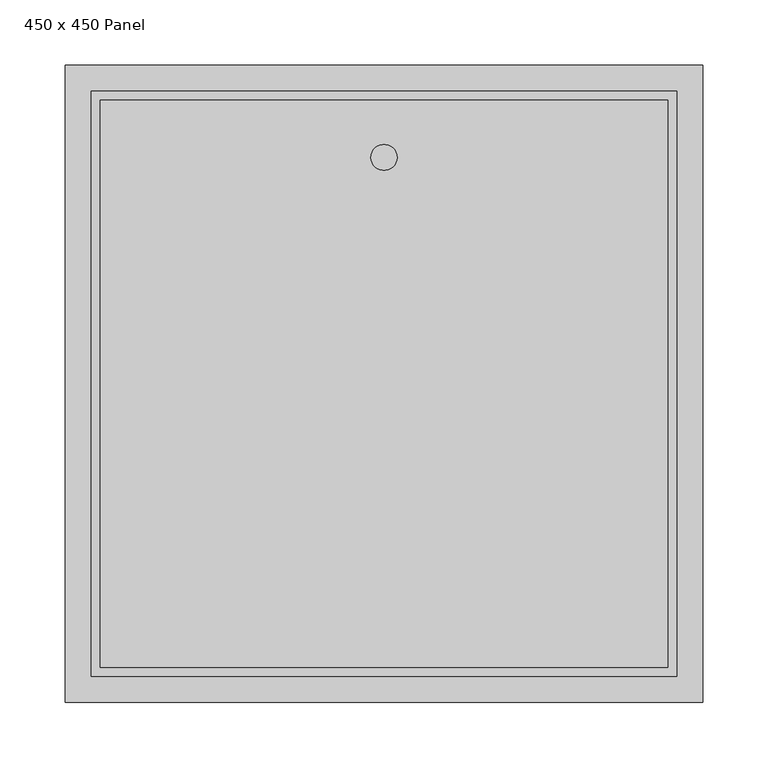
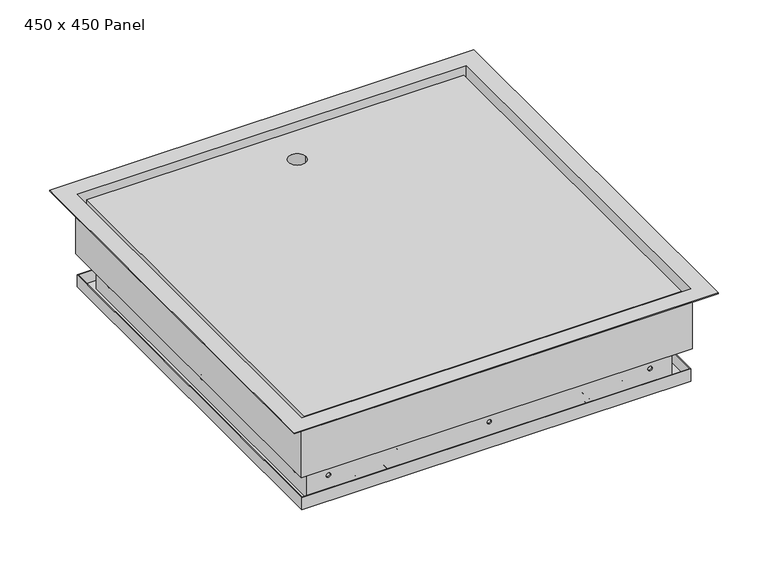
"""IFC4 building model written with IfcOpenShell, lengths in millimetres: proxy geometry, 450 x 450 Fyreshield : 450 x 450 Panel."""

from ifc_helpers import new_model, si_unit, point, frame, frame_2d, origin, place, context, project, spatial, polyline, circle_curve, trimmed, segment, composite_curve, outline, extrude, source, transform, mapped, element, save
from ifc_brep_helpers import plane_surface, cylinder_surface, revolved_surface, advanced_brep


def proxy_450_x_450_panel_227bbeb4(model_context):
    return source(origin(), model_context, "Body", "SolidModel", [
        advanced_brep(
        [(30.0, -280.0, -109.5), (32.5, -280.0, -112.0), (32.5, -285.0, -112.0), (30.0, -285.0, -109.5), (30.0, -280.0, -89.3136739), (30.0, -285.0, -89.3136739), (32.5, -280.0, -86.8136739), (32.5, -285.0, -86.8136739), (42.5, -280.0, -112.0), (45.0, -280.0, -114.5), (45.0, -285.0, -114.5), (42.5, -285.0, -112.0), (77.5, -280.0, -112.0), (87.5, -280.0, -112.0), (87.5, -285.0, -112.0), (77.5, -285.0, -112.0), (75.0, -280.0, -114.5), (75.0, -285.0, -114.5), (90.0, -280.0, -90.3136739), (87.5, -280.0, -87.8136739), (87.5, -285.0, -87.8136739), (90.0, -285.0, -90.3136739), (90.0, -280.0, -109.5), (90.0, -285.0, -109.5), (45.0, -280.0, -86.8136739), (45.0, -280.0, -87.8136739), (50.0, -280.0, -87.8136739), (50.0, -280.0, -122.3447528), (45.0, -280.0, -122.3447528), (41.239566, -280.0, -105.6125194), (36.239566, -280.0, -105.6125194), (36.239566, -280.0, -96.7011546), (41.239566, -280.0, -96.7011546), (41.239566, -280.0, -91.7011546), (36.239566, -280.0, -91.7011546), (75.0, -280.0, -122.3447528), (70.0, -280.0, -122.3447528), (70.0, -280.0, -87.8136739), (83.760434, -280.0, -94.2011546), (78.760434, -280.0, -94.2011546), (83.760434, -280.0, -108.1125194), (83.760434, -280.0, -103.1125194), (78.760434, -280.0, -103.1125194), (78.760434, -280.0, -108.1125194), (45.0, -285.0, -122.3447528), (75.0, -285.0, -122.3447528), (45.0, -285.0, -87.8136739), (45.0, -285.0, -86.8136739), (78.760434, -285.0, -94.2011546), (83.760434, -285.0, -94.2011546), (83.760434, -285.0, -103.1125194), (83.760434, -285.0, -108.1125194), (78.760434, -285.0, -108.1125194), (78.760434, -285.0, -103.1125194), (36.239566, -285.0, -105.6125194), (41.239566, -285.0, -105.6125194), (41.239566, -285.0, -96.7011546), (36.239566, -285.0, -96.7011546), (36.239566, -285.0, -91.7011546), (41.239566, -285.0, -91.7011546), (70.0, -272.5, -87.8136739), (50.0, -272.5, -87.8136739), (50.0, -260.0, -122.3447528), (70.0, -260.0, -122.3447528), (70.0, -260.0, -85.3136739), (70.0, -257.5, -82.8136739), (70.0, -231.75, -82.8136739), (70.0, -226.75, -77.8136739), (70.0, -226.75, -74.0), (70.0, -236.75, -74.0), (70.0, -268.0303717, -77.336871), (70.0, -272.5, -82.308662), (50.0, -260.0, -85.3136739), (50.0, -272.5, -82.308662), (50.0, -268.0303717, -77.336871), (50.0, -236.75, -74.0), (50.0, -226.75, -74.0), (50.0, -226.75, -77.8136739), (50.0, -231.75, -82.8136739), (50.0, -257.5, -82.8136739)],
        [
            (0, 1, circle_curve(frame((32.5, -280.0, -109.5), z_axis=(0.0, -1.0, 0.0), x_axis=(-1.0, 0.0, 0.0)), 2.5)),
            (1, 2),
            (2, 3, circle_curve(frame((32.5, -285.0, -109.5), z_axis=(0.0, 1.0, 0.0), x_axis=(-1.0, 0.0, 0.0)), 2.5)),
            (3, 0),
            (4, 0),
            (3, 5),
            (5, 4),
            (6, 4, circle_curve(frame((32.5, -280.0, -89.3136739), z_axis=(0.0, -1.0, 0.0), x_axis=(-1.0, 0.0, 0.0)), 2.5)),
            (5, 7, circle_curve(frame((32.5, -285.0, -89.3136739), z_axis=(0.0, 1.0, 0.0), x_axis=(-1.0, 0.0, 0.0)), 2.5)),
            (7, 6),
            (8, 9, circle_curve(frame((42.5, -280.0, -114.5), z_axis=(0.0, 1.0, 0.0), x_axis=(-1.0, 0.0, 0.0)), 2.5)),
            (9, 10),
            (10, 11, circle_curve(frame((42.5, -285.0, -114.5), z_axis=(0.0, -1.0, 0.0), x_axis=(-1.0, 0.0, 0.0)), 2.5)),
            (11, 8),
            (1, 8),
            (11, 2),
            (12, 13),
            (13, 14),
            (14, 15),
            (15, 12),
            (16, 12, circle_curve(frame((77.5, -280.0, -114.5), z_axis=(0.0, 1.0, 0.0), x_axis=(-1.0, 0.0, 0.0)), 2.5)),
            (15, 17, circle_curve(frame((77.5, -285.0, -114.5), z_axis=(0.0, -1.0, 0.0), x_axis=(-1.0, 0.0, 0.0)), 2.5)),
            (17, 16),
            (18, 19, circle_curve(frame((87.5, -280.0, -90.3136739), z_axis=(0.0, -1.0, 0.0), x_axis=(-1.0, 0.0, 0.0)), 2.5)),
            (19, 20),
            (20, 21, circle_curve(frame((87.5, -285.0, -90.3136739), z_axis=(0.0, 1.0, 0.0), x_axis=(-1.0, 0.0, 0.0)), 2.5)),
            (21, 18),
            (22, 18),
            (21, 23),
            (23, 22),
            (13, 22, circle_curve(frame((87.5, -280.0, -109.5), z_axis=(0.0, -1.0, 0.0), x_axis=(-1.0, 0.0, 0.0)), 2.5)),
            (23, 14, circle_curve(frame((87.5, -285.0, -109.5), z_axis=(0.0, 1.0, 0.0), x_axis=(-1.0, 0.0, 0.0)), 2.5)),
            (6, 24),
            (24, 25),
            (25, 26),
            (26, 27),
            (27, 28),
            (28, 9),
            (29, 30, circle_curve(frame((38.739566, -280.0, -105.6125194), z_axis=(0.0, -1.0, 0.0), x_axis=(1.0, 0.0, 0.0)), 2.5)),
            (30, 29, circle_curve(frame((38.739566, -280.0, -105.6125194), z_axis=(0.0, -1.0, 0.0), x_axis=(1.0, 0.0, 0.0)), 2.5)),
            (31, 32),
            (32, 33, circle_curve(frame((41.239566, -280.0, -94.2011546), z_axis=(0.0, -1.0, 0.0), x_axis=(1.0, 0.0, 0.0)), 2.5)),
            (33, 34),
            (34, 31, circle_curve(frame((36.239566, -280.0, -94.2011546), z_axis=(0.0, -1.0, 0.0), x_axis=(1.0, 0.0, 0.0)), 2.5)),
            (16, 35),
            (35, 36),
            (36, 37),
            (37, 19),
            (38, 39, circle_curve(frame((81.260434, -280.0, -94.2011546), z_axis=(0.0, -1.0, 0.0), x_axis=(1.0, 0.0, 0.0)), 2.5)),
            (39, 38, circle_curve(frame((81.260434, -280.0, -94.2011546), z_axis=(0.0, -1.0, 0.0), x_axis=(1.0, 0.0, 0.0)), 2.5)),
            (40, 41, circle_curve(frame((83.760434, -280.0, -105.6125194), z_axis=(0.0, -1.0, 0.0), x_axis=(1.0, 0.0, 0.0)), 2.5)),
            (41, 42),
            (42, 43, circle_curve(frame((78.760434, -280.0, -105.6125194), z_axis=(0.0, -1.0, 0.0), x_axis=(1.0, 0.0, 0.0)), 2.5)),
            (43, 40),
            (10, 44),
            (44, 45),
            (45, 17),
            (20, 46),
            (46, 47),
            (47, 7),
            (48, 49, circle_curve(frame((81.260434, -285.0, -94.2011546), z_axis=(0.0, 1.0, 0.0), x_axis=(1.0, 0.0, 0.0)), 2.5)),
            (49, 48, circle_curve(frame((81.260434, -285.0, -94.2011546), z_axis=(0.0, 1.0, 0.0), x_axis=(1.0, 0.0, 0.0)), 2.5)),
            (50, 51, circle_curve(frame((83.760434, -285.0, -105.6125194), z_axis=(0.0, 1.0, 0.0), x_axis=(1.0, 0.0, 0.0)), 2.5)),
            (51, 52),
            (52, 53, circle_curve(frame((78.760434, -285.0, -105.6125194), z_axis=(0.0, 1.0, 0.0), x_axis=(1.0, 0.0, 0.0)), 2.5)),
            (53, 50),
            (54, 55, circle_curve(frame((38.739566, -285.0, -105.6125194), z_axis=(0.0, 1.0, 0.0), x_axis=(1.0, 0.0, 0.0)), 2.5)),
            (55, 54, circle_curve(frame((38.739566, -285.0, -105.6125194), z_axis=(0.0, 1.0, 0.0), x_axis=(1.0, 0.0, 0.0)), 2.5)),
            (56, 57),
            (57, 58, circle_curve(frame((36.239566, -285.0, -94.2011546), z_axis=(0.0, 1.0, 0.0), x_axis=(1.0, 0.0, 0.0)), 2.5)),
            (58, 59),
            (59, 56, circle_curve(frame((41.239566, -285.0, -94.2011546), z_axis=(0.0, 1.0, 0.0), x_axis=(1.0, 0.0, 0.0)), 2.5)),
            (47, 24),
            (46, 25),
            (37, 60),
            (60, 61),
            (61, 26),
            (27, 62),
            (62, 63),
            (63, 36),
            (35, 45),
            (44, 28),
            (63, 64),
            (64, 65, circle_curve(frame((70.0, -257.5, -85.3136739), z_axis=(-1.0, 0.0, 0.0), x_axis=(0.0, 1.0, 0.0)), 2.5)),
            (65, 66),
            (66, 67, circle_curve(frame((70.0, -231.75, -77.8136739), z_axis=(1.0, 0.0, 0.0), x_axis=(0.0, 1.0, 0.0)), 5.0)),
            (67, 68),
            (68, 69),
            (69, 70),
            (70, 71, circle_curve(frame((70.0, -267.5, -82.308662), z_axis=(1.0, 0.0, 0.0), x_axis=(0.0, 1.0, 0.0)), 5.0)),
            (71, 60),
            (62, 72),
            (72, 64),
            (61, 73),
            (73, 74, circle_curve(frame((50.0, -267.5, -82.308662), z_axis=(-1.0, 0.0, 0.0), x_axis=(0.0, 1.0, 0.0)), 5.0)),
            (74, 75),
            (75, 76),
            (76, 77),
            (77, 78, circle_curve(frame((50.0, -231.75, -77.8136739), z_axis=(-1.0, 0.0, 0.0), x_axis=(0.0, 1.0, 0.0)), 5.0)),
            (78, 79),
            (79, 72, circle_curve(frame((50.0, -257.5, -85.3136739), z_axis=(1.0, 0.0, 0.0), x_axis=(0.0, 1.0, 0.0)), 2.5)),
            (71, 73),
            (79, 65),
            (78, 66),
            (77, 67),
            (76, 68),
            (75, 69),
            (74, 70),
            (48, 39),
            (38, 49),
            (50, 41),
            (40, 51),
            (43, 52),
            (42, 53),
            (54, 30),
            (29, 55),
            (56, 32),
            (31, 57),
            (34, 58),
            (33, 59),
        ],
        [
            cylinder_surface(frame((32.5, -285.0, -109.5), z_axis=(0.0, 1.0, 0.0), x_axis=(-1.0, 0.0, 0.0)), 2.5),
            plane_surface(frame((30.0, -280.0, -109.5), z_axis=(-1.0, 0.0, 0.0), x_axis=(0.0, -1.0, 0.0))),
            cylinder_surface(frame((32.5, -285.0, -89.3136739), z_axis=(0.0, 1.0, 0.0), x_axis=(-1.0, 0.0, 0.0)), 2.5),
            revolved_surface(polyline([(40.0, -285.0, -114.5), (40.0, -280.0, -114.5)]), (42.5, -285.0, -114.5), (0.0, -1.0, 0.0)),
            plane_surface(frame((42.5, -280.0, -112.0), z_axis=(0.0, 0.0, -1.0), x_axis=(0.0, -1.0, 0.0))),
            plane_surface(frame((87.5, -280.0, -112.0), z_axis=(0.0, 0.0, -1.0), x_axis=(0.0, -1.0, 0.0))),
            revolved_surface(polyline([(75.0, -285.0, -114.5), (75.0, -280.0, -114.5)]), (77.5, -285.0, -114.5), (0.0, -1.0, 0.0)),
            cylinder_surface(frame((87.5, -285.0, -90.3136739), z_axis=(0.0, 1.0, 0.0), x_axis=(-1.0, 0.0, 0.0)), 2.5),
            plane_surface(frame((90.0, -280.0, -90.3136739), z_axis=(1.0, 0.0, 0.0), x_axis=(0.0, -1.0, 0.0))),
            cylinder_surface(frame((87.5, -285.0, -109.5), z_axis=(0.0, 1.0, 0.0), x_axis=(-1.0, 0.0, 0.0)), 2.5),
            plane_surface(frame((30.0, -280.0, -109.5), z_axis=(0.0, 1.0, 0.0), x_axis=(0.0, 0.0, 1.0))),
            plane_surface(frame((30.0, -285.0, -109.5), z_axis=(0.0, -1.0, 0.0), x_axis=(0.0, 0.0, -1.0))),
            plane_surface(frame((32.5, -280.0, -86.8136739), z_axis=(0.0, 0.0, 1.0), x_axis=(0.0, -1.0, 0.0))),
            plane_surface(frame((45.0, -280.0, -86.8136739), z_axis=(1.0, 0.0, 0.0), x_axis=(0.0, -1.0, 0.0))),
            plane_surface(frame((75.0, -280.0, -87.8136739), z_axis=(0.0, 0.0, 1.0), x_axis=(0.0, -1.0, 0.0))),
            plane_surface(frame((-225.0, -285.0, -122.3447528), z_axis=(0.0, 0.0, -1.0), x_axis=(0.0, 1.0, 0.0))),
            plane_surface(frame((45.0, -280.0, -87.8136739), z_axis=(-1.0, 0.0, 0.0), x_axis=(0.0, 0.0, -1.0))),
            plane_surface(frame((75.0, -285.0, -87.8136739), z_axis=(1.0, 0.0, 0.0), x_axis=(0.0, 0.0, -1.0))),
            plane_surface(frame((70.0, -280.0, -87.8136739), z_axis=(1.0, 0.0, 0.0), x_axis=(0.0, 0.0, -1.0))),
            plane_surface(frame((70.0, -260.0, -87.8136739), z_axis=(0.0, 1.0, 0.0), x_axis=(0.0, 0.0, -1.0))),
            plane_surface(frame((50.0, -260.0, -87.8136739), z_axis=(-1.0, 0.0, 0.0), x_axis=(0.0, 0.0, -1.0))),
            plane_surface(frame((70.0, -272.5, -82.308662), z_axis=(0.0, -1.0, 0.0), x_axis=(-1.0, 0.0, 0.0))),
            revolved_surface(polyline([(50.0, -255.0, -85.3136739), (70.0, -255.0, -85.3136739)]), (50.0, -257.5, -85.3136739), (-1.0, 0.0, 0.0)),
            plane_surface(frame((70.0, -257.5, -82.8136739), z_axis=(0.0, 0.0, -1.0), x_axis=(-1.0, 0.0, 0.0))),
            cylinder_surface(frame((50.0, -231.75, -77.8136739), z_axis=(1.0, 0.0, 0.0), x_axis=(0.0, 1.0, 0.0)), 5.0),
            plane_surface(frame((70.0, -226.75, -77.8136739), z_axis=(0.0, 1.0, 0.0), x_axis=(-1.0, 0.0, 0.0))),
            plane_surface(frame((70.0, -226.75, -74.0), z_axis=(0.0, 0.0, 1.0), x_axis=(-1.0, 0.0, 0.0))),
            plane_surface(frame((70.0, -236.75, -74.0), z_axis=(0.0, -0.10607434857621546, 0.9943582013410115), x_axis=(-1.0, 0.0, 0.0))),
            cylinder_surface(frame((50.0, -267.5, -82.308662), z_axis=(1.0, 0.0, 0.0), x_axis=(0.0, 1.0, 0.0)), 5.0),
            revolved_surface(polyline([(83.760434, -285.0, -94.2011546), (83.760434, -280.0, -94.2011546)]), (81.260434, -280.0, -94.2011546), (0.0, -1.0, 0.0)),
            revolved_surface(polyline([(86.260434, -285.0, -105.6125194), (86.260434, -280.0, -105.6125194)]), (83.760434, -280.0, -105.6125194), (0.0, -1.0, 0.0)),
            plane_surface(frame((78.760434, -285.0, -108.1125194), z_axis=(0.0, 0.0, 1.0), x_axis=(0.0, 1.0, 0.0))),
            revolved_surface(polyline([(81.260434, -285.0, -105.6125194), (81.260434, -280.0, -105.6125194)]), (78.760434, -280.0, -105.6125194), (0.0, -1.0, 0.0)),
            plane_surface(frame((83.760434, -285.0, -103.1125194), z_axis=(0.0, 0.0, -1.0), x_axis=(0.0, 1.0, 0.0))),
            revolved_surface(polyline([(41.239566, -285.0, -105.6125194), (41.239566, -280.0, -105.6125194)]), (38.739566, -280.0, -105.6125194), (0.0, -1.0, 0.0)),
            plane_surface(frame((36.239566, -285.0, -96.7011546), z_axis=(0.0, 0.0, 1.0), x_axis=(0.0, 1.0, 0.0))),
            revolved_surface(polyline([(38.739566, -285.0, -94.2011546), (38.739566, -280.0, -94.2011546)]), (36.239566, -280.0, -94.2011546), (0.0, -1.0, 0.0)),
            plane_surface(frame((41.239566, -285.0, -91.7011546), z_axis=(0.0, 0.0, -1.0), x_axis=(0.0, 1.0, 0.0))),
            revolved_surface(polyline([(43.739566, -285.0, -94.2011546), (43.739566, -280.0, -94.2011546)]), (41.239566, -280.0, -94.2011546), (0.0, -1.0, 0.0)),
        ],
        [
            (0, [[1, 2, 3, 4]]),
            (1, [[5, -4, 6, 7]]),
            (2, [[8, -7, 9, 10]]),
            (3, [[11, 12, 13, 14]]),
            (4, [[15, -14, 16, -2]]),
            (5, [[17, 18, 19, 20]]),
            (6, [[21, -20, 22, 23]]),
            (7, [[24, 25, 26, 27]]),
            (8, [[28, -27, 29, 30]]),
            (9, [[31, -30, 32, -18]]),
            (10, [[-1, -5, -8, 33, 34, 35, 36, 37, 38, -11, -15], [39, 40], [41, 42, 43, 44]]),
            (10, [[-17, -21, 45, 46, 47, 48, -24, -28, -31], [49, 50], [51, 52, 53, 54]]),
            (11, [[-16, -13, 55, 56, 57, -22, -19, -32, -29, -26, 58, 59, 60, -9, -6, -3], [61, 62], [63, 64, 65, 66], [67, 68], [69, 70, 71, 72]]),
            (12, [[-33, -10, -60, 73]]),
            (13, [[-73, -59, 74, -34]]),
            (14, [[-25, -48, 75, 76, 77, -35, -74, -58]]),
            (15, [[-37, 78, 79, 80, -46, 81, -56, 82]]),
            (16, [[-82, -55, -12, -38]]),
            (17, [[-81, -45, -23, -57]]),
            (18, [[-80, 83, 84, 85, 86, 87, 88, 89, 90, 91, -75, -47]]),
            (19, [[-83, -79, 92, 93]]),
            (20, [[-92, -78, -36, -77, 94, 95, 96, 97, 98, 99, 100, 101]]),
            (21, [[-94, -76, -91, 102]]),
            (22, [[-101, 103, -84, -93]]),
            (23, [[-100, 104, -85, -103]]),
            (24, [[-99, 105, -86, -104]]),
            (25, [[-98, 106, -87, -105]]),
            (26, [[-97, 107, -88, -106]]),
            (27, [[-96, 108, -89, -107]]),
            (28, [[-95, -102, -90, -108]]),
            (29, [[109, -49, 110, -61]]),
            (29, [[-109, -62, -110, -50]]),
            (30, [[111, -51, 112, -63]]),
            (31, [[-112, -54, 113, -64]]),
            (32, [[-113, -53, 114, -65]]),
            (33, [[-111, -66, -114, -52]]),
            (34, [[115, -39, 116, -67]]),
            (34, [[-115, -68, -116, -40]]),
            (35, [[117, -41, 118, -69]]),
            (36, [[-118, -44, 119, -70]]),
            (37, [[-119, -43, 120, -71]]),
            (38, [[-117, -72, -120, -42]]),
        ],
    ),
        advanced_brep(
        [(-192.5, -280.0, -112.0), (-182.5, -280.0, -112.0), (-182.5, -285.0, -112.0), (-192.5, -285.0, -112.0), (-195.0, -280.0, -114.5), (-195.0, -285.0, -114.5), (-180.0, -280.0, -90.3136739), (-182.5, -280.0, -87.8136739), (-182.5, -285.0, -87.8136739), (-180.0, -285.0, -90.3136739), (-180.0, -280.0, -109.5), (-180.0, -285.0, -109.5), (-195.0, -280.0, -122.3447528), (-200.0, -280.0, -122.3447528), (-200.0, -280.0, -87.8136739), (-186.239566, -280.0, -94.2011546), (-191.239566, -280.0, -94.2011546), (-186.239566, -280.0, -108.1125194), (-186.239566, -280.0, -103.1125194), (-191.239566, -280.0, -103.1125194), (-191.239566, -280.0, -108.1125194), (-225.0, -285.0, -87.8136739), (-225.0, -285.0, -122.3447528), (-195.0, -285.0, -122.3447528), (-191.239566, -285.0, -94.2011546), (-186.239566, -285.0, -94.2011546), (-186.239566, -285.0, -103.1125194), (-186.239566, -285.0, -108.1125194), (-191.239566, -285.0, -108.1125194), (-191.239566, -285.0, -103.1125194), (-200.0, -260.0, -87.8136739), (-220.0, -260.0, -87.8136739), (-220.0, -280.0, -87.8136739), (-225.0, -280.0, -87.8136739), (-225.0, -280.0, -122.3447528), (-220.0, -280.0, -122.3447528), (-220.0, -260.0, -122.3447528), (-200.0, -260.0, -122.3447528)],
        [
            (0, 1),
            (1, 2),
            (2, 3),
            (3, 0),
            (4, 0, circle_curve(frame((-192.5, -280.0, -114.5), z_axis=(0.0, 1.0, 0.0), x_axis=(-1.0, 0.0, 0.0)), 2.5)),
            (3, 5, circle_curve(frame((-192.5, -285.0, -114.5), z_axis=(0.0, -1.0, 0.0), x_axis=(-1.0, 0.0, 0.0)), 2.5)),
            (5, 4),
            (6, 7, circle_curve(frame((-182.5, -280.0, -90.3136739), z_axis=(0.0, -1.0, 0.0), x_axis=(-1.0, 0.0, 0.0)), 2.5)),
            (7, 8),
            (8, 9, circle_curve(frame((-182.5, -285.0, -90.3136739), z_axis=(0.0, 1.0, 0.0), x_axis=(-1.0, 0.0, 0.0)), 2.5)),
            (9, 6),
            (10, 6),
            (9, 11),
            (11, 10),
            (1, 10, circle_curve(frame((-182.5, -280.0, -109.5), z_axis=(0.0, -1.0, 0.0), x_axis=(-1.0, 0.0, 0.0)), 2.5)),
            (11, 2, circle_curve(frame((-182.5, -285.0, -109.5), z_axis=(0.0, 1.0, 0.0), x_axis=(-1.0, 0.0, 0.0)), 2.5)),
            (4, 12),
            (12, 13),
            (13, 14),
            (14, 7),
            (15, 16, circle_curve(frame((-188.739566, -280.0, -94.2011546), z_axis=(0.0, -1.0, 0.0), x_axis=(1.0, 0.0, 0.0)), 2.5)),
            (16, 15, circle_curve(frame((-188.739566, -280.0, -94.2011546), z_axis=(0.0, -1.0, 0.0), x_axis=(1.0, 0.0, 0.0)), 2.5)),
            (17, 18, circle_curve(frame((-186.239566, -280.0, -105.6125194), z_axis=(0.0, -1.0, 0.0), x_axis=(1.0, 0.0, 0.0)), 2.5)),
            (18, 19),
            (19, 20, circle_curve(frame((-191.239566, -280.0, -105.6125194), z_axis=(0.0, -1.0, 0.0), x_axis=(1.0, 0.0, 0.0)), 2.5)),
            (20, 17),
            (8, 21),
            (21, 22),
            (22, 23),
            (23, 5),
            (24, 25, circle_curve(frame((-188.739566, -285.0, -94.2011546), z_axis=(0.0, 1.0, 0.0), x_axis=(1.0, 0.0, 0.0)), 2.5)),
            (25, 24, circle_curve(frame((-188.739566, -285.0, -94.2011546), z_axis=(0.0, 1.0, 0.0), x_axis=(1.0, 0.0, 0.0)), 2.5)),
            (26, 27, circle_curve(frame((-186.239566, -285.0, -105.6125194), z_axis=(0.0, 1.0, 0.0), x_axis=(1.0, 0.0, 0.0)), 2.5)),
            (27, 28),
            (28, 29, circle_curve(frame((-191.239566, -285.0, -105.6125194), z_axis=(0.0, 1.0, 0.0), x_axis=(1.0, 0.0, 0.0)), 2.5)),
            (29, 26),
            (14, 30),
            (30, 31),
            (31, 32),
            (32, 33),
            (33, 21),
            (34, 35),
            (35, 36),
            (36, 37),
            (37, 13),
            (12, 23),
            (22, 34),
            (33, 34),
            (37, 30),
            (36, 31),
            (35, 32),
            (24, 16),
            (15, 25),
            (26, 18),
            (17, 27),
            (20, 28),
            (19, 29),
        ],
        [
            plane_surface(frame((-182.5, -280.0, -112.0), z_axis=(0.0, 0.0, -1.0), x_axis=(0.0, -1.0, 0.0))),
            revolved_surface(polyline([(-195.0, -285.0, -114.5), (-195.0, -280.0, -114.5)]), (-192.5, -285.0, -114.5), (0.0, -1.0, 0.0)),
            cylinder_surface(frame((-182.5, -285.0, -90.3136739), z_axis=(0.0, 1.0, 0.0), x_axis=(-1.0, 0.0, 0.0)), 2.5),
            plane_surface(frame((-180.0, -280.0, -90.3136739), z_axis=(1.0, 0.0, 0.0), x_axis=(0.0, -1.0, 0.0))),
            cylinder_surface(frame((-182.5, -285.0, -109.5), z_axis=(0.0, 1.0, 0.0), x_axis=(-1.0, 0.0, 0.0)), 2.5),
            plane_surface(frame((30.0, -280.0, -109.5), z_axis=(0.0, 1.0, 0.0), x_axis=(0.0, 0.0, 1.0))),
            plane_surface(frame((30.0, -285.0, -109.5), z_axis=(0.0, -1.0, 0.0), x_axis=(0.0, 0.0, -1.0))),
            plane_surface(frame((75.0, -280.0, -87.8136739), z_axis=(0.0, 0.0, 1.0), x_axis=(0.0, -1.0, 0.0))),
            plane_surface(frame((-225.0, -285.0, -122.3447528), z_axis=(0.0, 0.0, -1.0), x_axis=(0.0, 1.0, 0.0))),
            plane_surface(frame((-225.0, -280.0, -87.8136739), z_axis=(-1.0, 0.0, 0.0), x_axis=(0.0, 0.0, -1.0))),
            plane_surface(frame((-195.0, -285.0, -87.8136739), z_axis=(1.0, 0.0, 0.0), x_axis=(0.0, 0.0, -1.0))),
            plane_surface(frame((-200.0, -280.0, -87.8136739), z_axis=(1.0, 0.0, 0.0), x_axis=(0.0, 0.0, -1.0))),
            plane_surface(frame((-200.0, -260.0, -87.8136739), z_axis=(0.0, 1.0, 0.0), x_axis=(0.0, 0.0, -1.0))),
            plane_surface(frame((-220.0, -260.0, -87.8136739), z_axis=(-1.0, 0.0, 0.0), x_axis=(0.0, 0.0, -1.0))),
            plane_surface(frame((-220.0, -280.0, -87.8136739), z_axis=(0.0, 1.0, 0.0), x_axis=(0.0, 0.0, -1.0))),
            revolved_surface(polyline([(-186.239566, -285.0, -94.2011546), (-186.239566, -280.0, -94.2011546)]), (-188.739566, -280.0, -94.2011546), (0.0, -1.0, 0.0)),
            revolved_surface(polyline([(-183.739566, -285.0, -105.6125194), (-183.739566, -280.0, -105.6125194)]), (-186.239566, -280.0, -105.6125194), (0.0, -1.0, 0.0)),
            plane_surface(frame((-191.239566, -285.0, -108.1125194), z_axis=(0.0, 0.0, 1.0), x_axis=(0.0, 1.0, 0.0))),
            revolved_surface(polyline([(-188.739566, -285.0, -105.6125194), (-188.739566, -280.0, -105.6125194)]), (-191.239566, -280.0, -105.6125194), (0.0, -1.0, 0.0)),
            plane_surface(frame((-186.239566, -285.0, -103.1125194), z_axis=(0.0, 0.0, -1.0), x_axis=(0.0, 1.0, 0.0))),
        ],
        [
            (0, [[1, 2, 3, 4]]),
            (1, [[5, -4, 6, 7]]),
            (2, [[8, 9, 10, 11]]),
            (3, [[12, -11, 13, 14]]),
            (4, [[15, -14, 16, -2]]),
            (5, [[-1, -5, 17, 18, 19, 20, -8, -12, -15], [21, 22], [23, 24, 25, 26]]),
            (6, [[-16, -13, -10, 27, 28, 29, 30, -6, -3], [31, 32], [33, 34, 35, 36]]),
            (7, [[-9, -20, 37, 38, 39, 40, 41, -27]]),
            (8, [[42, 43, 44, 45, -18, 46, -29, 47]]),
            (9, [[-41, 48, -47, -28]]),
            (10, [[-46, -17, -7, -30]]),
            (11, [[-37, -19, -45, 49]]),
            (12, [[-38, -49, -44, 50]]),
            (13, [[-39, -50, -43, 51]]),
            (14, [[-40, -51, -42, -48]]),
            (15, [[52, -21, 53, -31]]),
            (15, [[-52, -32, -53, -22]]),
            (16, [[54, -23, 55, -33]]),
            (17, [[-55, -26, 56, -34]]),
            (18, [[-56, -25, 57, -35]]),
            (19, [[-54, -36, -57, -24]]),
        ],
    ),
        advanced_brep(
        [(-233.760434, -280.0, -105.6125194), (-228.760434, -280.0, -105.6125194), (-228.760434, -285.0, -105.6125194), (-233.760434, -285.0, -105.6125194)],
        [
            (0, 1, circle_curve(frame((-231.260434, -280.0, -105.6125194), z_axis=(0.0, 1.0, 0.0), x_axis=(1.0, 0.0, 0.0)), 2.5)),
            (1, 0, circle_curve(frame((-231.260434, -280.0, -105.6125194), z_axis=(0.0, 1.0, 0.0), x_axis=(1.0, 0.0, 0.0)), 2.5)),
            (2, 3, circle_curve(frame((-231.260434, -285.0, -105.6125194), z_axis=(0.0, -1.0, 0.0), x_axis=(1.0, 0.0, 0.0)), 2.5)),
            (3, 2, circle_curve(frame((-231.260434, -285.0, -105.6125194), z_axis=(0.0, -1.0, 0.0), x_axis=(1.0, 0.0, 0.0)), 2.5)),
            (2, 1),
            (0, 3),
        ],
        [
            plane_surface(frame((30.0, -280.0, -109.5), z_axis=(0.0, 1.0, 0.0), x_axis=(0.0, 0.0, 1.0))),
            plane_surface(frame((30.0, -285.0, -109.5), z_axis=(0.0, -1.0, 0.0), x_axis=(0.0, 0.0, -1.0))),
            cylinder_surface(frame((-231.260434, -280.0, -105.6125194), z_axis=(0.0, 1.0, 0.0), x_axis=(1.0, 0.0, 0.0)), 2.5),
        ],
        [
            (0, [[1, 2]]),
            (1, [[3, 4]]),
            (2, [[5, -1, 6, -3]]),
            (2, [[-5, -4, -6, -2]]),
        ],
    ),
        extrude(outline(composite_curve([segment(trimmed(circle_curve(frame_2d((-267.5, -82.308662)), 5.0), [point((-272.5, -82.308662))], [point((-268.0303717, -77.336871))], False, "CARTESIAN"), True, "CONTINUOUS"), segment(polyline([(-268.0303717, -77.336871), (-236.75, -74.0), (-226.75, -74.0), (-226.75, -77.8136739)]), True, "CONTINUOUS"), segment(trimmed(circle_curve(frame_2d((-231.75, -77.8136739)), 5.0), [point((-226.75, -77.8136739))], [point((-231.75, -82.8136739))], False, "CARTESIAN"), True, "CONTINUOUS"), segment(polyline([(-231.75, -82.8136739), (-257.5, -82.8136739)]), True, "CONTINUOUS"), segment(trimmed(circle_curve(frame_2d((-257.5, -85.3136739)), 2.5), [point((-257.5, -82.8136739))], [point((-260.0, -85.3136739))], True, "CARTESIAN"), True, "CONTINUOUS"), segment(polyline([(-260.0, -85.3136739), (-260.0, -87.8136739), (-272.5, -87.8136739), (-272.5, -82.308662)]), True, "CONTINUOUS")], self_intersect=False)), frame((-220.0, 0.0, 0.0), z_axis=(1.0, 0.0, 0.0), x_axis=(0.0, 1.0, 0.0)), (0.0, 0.0, 1.0), 20.0),
        extrude(outline(composite_curve([segment(trimmed(circle_curve(frame_2d((10.0, -234.25)), 5.0), [point((10.0, -239.25))], [point((5.0, -234.25))], False, "CARTESIAN"), True, "CONTINUOUS"), segment(polyline([(5.0, -234.25), (5.0, -214.25)]), True, "CONTINUOUS"), segment(trimmed(circle_curve(frame_2d((10.0, -214.25)), 5.0), [point((5.0, -214.25))], [point((10.0, -209.25))], False, "CARTESIAN"), True, "CONTINUOUS"), segment(polyline([(10.0, -209.25), (60.0, -209.25), (110.0, -209.25)]), True, "CONTINUOUS"), segment(trimmed(circle_curve(frame_2d((110.0, -214.25)), 5.0), [point((110.0, -209.25))], [point((115.0, -214.25))], False, "CARTESIAN"), True, "CONTINUOUS"), segment(polyline([(115.0, -214.25), (115.0, -234.25)]), True, "CONTINUOUS"), segment(trimmed(circle_curve(frame_2d((110.0, -234.25)), 5.0), [point((115.0, -234.25))], [point((110.0, -239.25))], False, "CARTESIAN"), True, "CONTINUOUS"), segment(polyline([(110.0, -239.25), (90.0, -239.25)]), True, "CONTINUOUS"), segment(trimmed(circle_curve(frame_2d((60.0, -239.25)), 30.0), [point((90.0, -239.25))], [point((30.0, -239.25))], False, "CARTESIAN"), True, "CONTINUOUS"), segment(polyline([(30.0, -239.25), (10.0, -239.25)]), True, "CONTINUOUS")], self_intersect=False)), frame((0.0, 0.0, -74.0), z_axis=(0.0, 0.0, 1.0), x_axis=(1.0, 0.0, 0.0)), (0.0, 0.0, 1.0), 3.0),
        extrude(outline(composite_curve([segment(trimmed(circle_curve(frame_2d((-260.0, -234.25)), 5.0), [point((-260.0, -239.25))], [point((-265.0, -234.25))], False, "CARTESIAN"), True, "CONTINUOUS"), segment(polyline([(-265.0, -234.25), (-265.0, -214.25)]), True, "CONTINUOUS"), segment(trimmed(circle_curve(frame_2d((-260.0, -214.25)), 5.0), [point((-265.0, -214.25))], [point((-260.0, -209.25))], False, "CARTESIAN"), True, "CONTINUOUS"), segment(polyline([(-260.0, -209.25), (-210.0, -209.25), (-160.0, -209.25)]), True, "CONTINUOUS"), segment(trimmed(circle_curve(frame_2d((-160.0, -214.25)), 5.0), [point((-160.0, -209.25))], [point((-155.0, -214.25))], False, "CARTESIAN"), True, "CONTINUOUS"), segment(polyline([(-155.0, -214.25), (-155.0, -234.25)]), True, "CONTINUOUS"), segment(trimmed(circle_curve(frame_2d((-160.0, -234.25)), 5.0), [point((-155.0, -234.25))], [point((-160.0, -239.25))], False, "CARTESIAN"), True, "CONTINUOUS"), segment(polyline([(-160.0, -239.25), (-180.0, -239.25)]), True, "CONTINUOUS"), segment(trimmed(circle_curve(frame_2d((-210.0, -239.25)), 30.0), [point((-180.0, -239.25))], [point((-240.0, -239.25))], False, "CARTESIAN"), True, "CONTINUOUS"), segment(polyline([(-240.0, -239.25), (-260.0, -239.25)]), True, "CONTINUOUS")], self_intersect=False)), frame((0.0, 0.0, -74.0), z_axis=(0.0, 0.0, 1.0), x_axis=(1.0, 0.0, 0.0)), (0.0, 0.0, 1.0), 3.0),
        extrude(outline(polyline([(143.0, 143.0), (143.0, -293.0), (-293.0, -293.0), (-293.0, 143.0), (143.0, 143.0)]), holes=[composite_curve([segment(trimmed(circle_curve(frame_2d((-75.0, 99.0)), 10.0), [point((-85.0, 99.0))], [point((-65.0, 99.0))], True, "CARTESIAN"), True, "CONTINUOUS"), segment(trimmed(circle_curve(frame_2d((-75.0, 99.0)), 10.0), [point((-65.0, 99.0))], [point((-85.0, 99.0))], True, "CARTESIAN"), True, "CONTINUOUS")], self_intersect=False)]), frame((0.0, 0.0, -71.0), z_axis=(0.0, 0.0, 1.0), x_axis=(1.0, 0.0, 0.0)), (0.0, 0.0, 1.0), 67.0),
        extrude(outline(composite_curve([segment(polyline([(-65.0, 129.0), (-85.0, 129.0), (-85.0, 146.0)]), True, "CONTINUOUS"), segment(trimmed(circle_curve(frame_2d((-80.0, 146.0)), 5.0), [point((-85.0, 146.0))], [point((-80.0, 151.0))], False, "CARTESIAN"), True, "CONTINUOUS"), segment(polyline([(-80.0, 151.0), (-70.0, 151.0)]), True, "CONTINUOUS"), segment(trimmed(circle_curve(frame_2d((-70.0, 146.0)), 5.0), [point((-70.0, 151.0))], [point((-65.0, 146.0))], False, "CARTESIAN"), True, "CONTINUOUS"), segment(polyline([(-65.0, 146.0), (-65.0, 129.0)]), True, "CONTINUOUS")], self_intersect=False)), frame((0.0, 0.0, -78.5), z_axis=(0.0, 0.0, 1.0), x_axis=(1.0, 0.0, 0.0)), (0.0, 0.0, 1.0), 5.0),
        extrude(outline(composite_curve([segment(polyline([(129.0, 129.0), (129.0, -279.0), (85.0, -279.0), (85.0, -248.5)]), True, "CONTINUOUS"), segment(trimmed(circle_curve(frame_2d((60.0, -248.5)), 25.0), [point((85.0, -248.5))], [point((35.0, -248.5))], True, "CARTESIAN"), True, "CONTINUOUS"), segment(polyline([(35.0, -248.5), (35.0, -279.0), (-185.0, -279.0), (-185.0, -248.5)]), True, "CONTINUOUS"), segment(trimmed(circle_curve(frame_2d((-210.0, -248.5)), 25.0), [point((-185.0, -248.5))], [point((-235.0, -248.5))], True, "CARTESIAN"), True, "CONTINUOUS"), segment(polyline([(-235.0, -248.5), (-235.0, -279.0), (-279.0, -279.0), (-279.0, 129.0), (129.0, 129.0)]), True, "CONTINUOUS")], self_intersect=False)), frame((0.0, 0.0, -106.7942023), z_axis=(0.0, 0.0, 1.0), x_axis=(1.0, 0.0, 0.0)), (0.0, 0.0, 1.0), 34.7942023),
        advanced_brep(
        [(170.0, 170.0, 0.0), (170.0, 170.0, 1.0), (170.0, -320.0, 1.0), (170.0, -320.0, 0.0), (151.0, 151.0, -72.0), (151.0, 151.0, 0.0), (151.0, -301.0, 0.0), (151.0, -301.0, -72.0), (136.0, 136.0, -111.0), (136.0, 136.0, -72.0), (136.0, -286.0, -72.0), (136.0, -286.0, -111.0), (136.0, -263.5, -91.5), (136.0, -258.5, -91.5), (136.0, 108.5, -91.5), (136.0, 113.5, -91.5), (136.0, -77.5, -91.5), (136.0, -72.5, -91.5), (149.0, 149.0, -97.0), (149.0, 149.0, -111.0), (149.0, -299.0, -111.0), (149.0, -299.0, -97.0), (150.0, 150.0, -112.0), (150.0, 150.0, -97.0), (150.0, -300.0, -97.0), (150.0, -300.0, -112.0), (135.0, 135.0, -71.0), (135.0, 135.0, -112.0), (135.0, -285.0, -112.0), (135.0, -285.0, -71.0), (135.0, -258.5, -91.5), (135.0, -263.5, -91.5), (135.0, 113.5, -91.5), (135.0, 108.5, -91.5), (135.0, -72.5, -91.5), (135.0, -77.5, -91.5), (150.0, 150.0, 1.0), (150.0, 150.0, -71.0), (150.0, -300.0, -71.0), (150.0, -300.0, 1.0), (-320.0, -320.0, 1.0), (-320.0, -320.0, 0.0), (-301.0, -301.0, 0.0), (-301.0, -301.0, -72.0), (-286.0, -286.0, -72.0), (-286.0, -286.0, -111.0), (-263.5, -286.0, -91.5), (-258.5, -286.0, -91.5), (108.5, -286.0, -91.5), (113.5, -286.0, -91.5), (-77.5, -286.0, -91.5), (-72.5, -286.0, -91.5), (-299.0, -299.0, -111.0), (-299.0, -299.0, -97.0), (-300.0, -300.0, -97.0), (-300.0, -300.0, -112.0), (-285.0, -285.0, -112.0), (-285.0, -285.0, -71.0), (-258.5, -285.0, -91.5), (-263.5, -285.0, -91.5), (113.5, -285.0, -91.5), (108.5, -285.0, -91.5), (-72.5, -285.0, -91.5), (-77.5, -285.0, -91.5), (-300.0, -300.0, -71.0), (-300.0, -300.0, 1.0), (-320.0, 170.0, 1.0), (-320.0, 170.0, 0.0), (-301.0, 151.0, 0.0), (-301.0, 151.0, -72.0), (-286.0, 136.0, -72.0), (-286.0, 136.0, -111.0), (-286.0, 113.5, -91.5), (-286.0, 108.5, -91.5), (-286.0, -258.5, -91.5), (-286.0, -263.5, -91.5), (-286.0, -72.5, -91.5), (-286.0, -77.5, -91.5), (-299.0, 149.0, -111.0), (-299.0, 149.0, -97.0), (-300.0, 150.0, -97.0), (-300.0, 150.0, -112.0), (-285.0, 135.0, -112.0), (-285.0, 135.0, -71.0), (-285.0, 108.5, -91.5), (-285.0, 113.5, -91.5), (-285.0, -263.5, -91.5), (-285.0, -258.5, -91.5), (-285.0, -77.5, -91.5), (-285.0, -72.5, -91.5), (-300.0, 150.0, -71.0), (-300.0, 150.0, 1.0), (-44.0039725, 136.0, -72.0), (-44.0039725, 135.0, -72.0), (-105.9960275, 135.0, -72.0), (-105.9960275, 136.0, -72.0), (-105.9960275, 136.0, -82.0), (-44.0039725, 136.0, -82.0), (113.5, 136.0, -91.5), (108.5, 136.0, -91.5), (-258.5, 136.0, -91.5), (-263.5, 136.0, -91.5), (-72.5, 136.0, -91.5), (-77.5, 136.0, -91.5), (108.5, 135.0, -91.5), (113.5, 135.0, -91.5), (-263.5, 135.0, -91.5), (-258.5, 135.0, -91.5), (-77.5, 135.0, -91.5), (-72.5, 135.0, -91.5), (-44.0039725, 135.0, -82.0), (-105.9960275, 135.0, -82.0)],
        [
            (0, 1),
            (1, 2),
            (2, 3),
            (3, 0),
            (4, 5),
            (5, 6),
            (6, 7),
            (7, 4),
            (8, 9),
            (9, 10),
            (10, 11),
            (11, 8),
            (12, 13, circle_curve(frame((136.0, -261.0, -91.5), z_axis=(-1.0, 0.0, 0.0), x_axis=(0.0, -1.0, 0.0)), 2.5)),
            (13, 12, circle_curve(frame((136.0, -261.0, -91.5), z_axis=(-1.0, 0.0, 0.0), x_axis=(0.0, -1.0, 0.0)), 2.5)),
            (14, 15, circle_curve(frame((136.0, 111.0, -91.5), z_axis=(-1.0, 0.0, 0.0), x_axis=(0.0, -1.0, 0.0)), 2.5)),
            (15, 14, circle_curve(frame((136.0, 111.0, -91.5), z_axis=(-1.0, 0.0, 0.0), x_axis=(0.0, -1.0, 0.0)), 2.5)),
            (16, 17, circle_curve(frame((136.0, -75.0, -91.5), z_axis=(-1.0, 0.0, 0.0), x_axis=(0.0, -1.0, 0.0)), 2.5)),
            (17, 16, circle_curve(frame((136.0, -75.0, -91.5), z_axis=(-1.0, 0.0, 0.0), x_axis=(0.0, -1.0, 0.0)), 2.5)),
            (18, 19),
            (19, 20),
            (20, 21),
            (21, 18),
            (22, 23),
            (23, 24),
            (24, 25),
            (25, 22),
            (26, 27),
            (27, 28),
            (28, 29),
            (29, 26),
            (30, 31, circle_curve(frame((135.0, -261.0, -91.5), z_axis=(1.0, 0.0, 0.0), x_axis=(0.0, -1.0, 0.0)), 2.5)),
            (31, 30, circle_curve(frame((135.0, -261.0, -91.5), z_axis=(1.0, 0.0, 0.0), x_axis=(0.0, -1.0, 0.0)), 2.5)),
            (32, 33, circle_curve(frame((135.0, 111.0, -91.5), z_axis=(1.0, 0.0, 0.0), x_axis=(0.0, -1.0, 0.0)), 2.5)),
            (33, 32, circle_curve(frame((135.0, 111.0, -91.5), z_axis=(1.0, 0.0, 0.0), x_axis=(0.0, -1.0, 0.0)), 2.5)),
            (34, 35, circle_curve(frame((135.0, -75.0, -91.5), z_axis=(1.0, 0.0, 0.0), x_axis=(0.0, -1.0, 0.0)), 2.5)),
            (35, 34, circle_curve(frame((135.0, -75.0, -91.5), z_axis=(1.0, 0.0, 0.0), x_axis=(0.0, -1.0, 0.0)), 2.5)),
            (36, 37),
            (37, 38),
            (38, 39),
            (39, 36),
            (2, 40),
            (40, 41),
            (41, 3),
            (6, 42),
            (42, 43),
            (43, 7),
            (10, 44),
            (44, 45),
            (45, 11),
            (46, 47, circle_curve(frame((-261.0, -286.0, -91.5), z_axis=(0.0, 1.0, 0.0), x_axis=(-1.0, 0.0, 0.0)), 2.5)),
            (47, 46, circle_curve(frame((-261.0, -286.0, -91.5), z_axis=(0.0, 1.0, 0.0), x_axis=(-1.0, 0.0, 0.0)), 2.5)),
            (48, 49, circle_curve(frame((111.0, -286.0, -91.5), z_axis=(0.0, 1.0, 0.0), x_axis=(-1.0, 0.0, 0.0)), 2.5)),
            (49, 48, circle_curve(frame((111.0, -286.0, -91.5), z_axis=(0.0, 1.0, 0.0), x_axis=(-1.0, 0.0, 0.0)), 2.5)),
            (50, 51, circle_curve(frame((-75.0, -286.0, -91.5), z_axis=(0.0, 1.0, 0.0), x_axis=(-1.0, 0.0, 0.0)), 2.5)),
            (51, 50, circle_curve(frame((-75.0, -286.0, -91.5), z_axis=(0.0, 1.0, 0.0), x_axis=(-1.0, 0.0, 0.0)), 2.5)),
            (20, 52),
            (52, 53),
            (53, 21),
            (24, 54),
            (54, 55),
            (55, 25),
            (28, 56),
            (56, 57),
            (57, 29),
            (58, 59, circle_curve(frame((-261.0, -285.0, -91.5), z_axis=(0.0, -1.0, 0.0), x_axis=(-1.0, 0.0, 0.0)), 2.5)),
            (59, 58, circle_curve(frame((-261.0, -285.0, -91.5), z_axis=(0.0, -1.0, 0.0), x_axis=(-1.0, 0.0, 0.0)), 2.5)),
            (60, 61, circle_curve(frame((111.0, -285.0, -91.5), z_axis=(0.0, -1.0, 0.0), x_axis=(-1.0, 0.0, 0.0)), 2.5)),
            (61, 60, circle_curve(frame((111.0, -285.0, -91.5), z_axis=(0.0, -1.0, 0.0), x_axis=(-1.0, 0.0, 0.0)), 2.5)),
            (62, 63, circle_curve(frame((-75.0, -285.0, -91.5), z_axis=(0.0, -1.0, 0.0), x_axis=(-1.0, 0.0, 0.0)), 2.5)),
            (63, 62, circle_curve(frame((-75.0, -285.0, -91.5), z_axis=(0.0, -1.0, 0.0), x_axis=(-1.0, 0.0, 0.0)), 2.5)),
            (38, 64),
            (64, 65),
            (65, 39),
            (40, 66),
            (66, 67),
            (67, 41),
            (42, 68),
            (68, 69),
            (69, 43),
            (44, 70),
            (70, 71),
            (71, 45),
            (72, 73, circle_curve(frame((-286.0, 111.0, -91.5), z_axis=(1.0, 0.0, 0.0), x_axis=(0.0, 1.0, 0.0)), 2.5)),
            (73, 72, circle_curve(frame((-286.0, 111.0, -91.5), z_axis=(1.0, 0.0, 0.0), x_axis=(0.0, 1.0, 0.0)), 2.5)),
            (74, 75, circle_curve(frame((-286.0, -261.0, -91.5), z_axis=(1.0, 0.0, 0.0), x_axis=(0.0, 1.0, 0.0)), 2.5)),
            (75, 74, circle_curve(frame((-286.0, -261.0, -91.5), z_axis=(1.0, 0.0, 0.0), x_axis=(0.0, 1.0, 0.0)), 2.5)),
            (76, 77, circle_curve(frame((-286.0, -75.0, -91.5), z_axis=(1.0, 0.0, 0.0), x_axis=(0.0, 1.0, 0.0)), 2.5)),
            (77, 76, circle_curve(frame((-286.0, -75.0, -91.5), z_axis=(1.0, 0.0, 0.0), x_axis=(0.0, 1.0, 0.0)), 2.5)),
            (52, 78),
            (78, 79),
            (79, 53),
            (54, 80),
            (80, 81),
            (81, 55),
            (56, 82),
            (82, 83),
            (83, 57),
            (84, 85, circle_curve(frame((-285.0, 111.0, -91.5), z_axis=(-1.0, 0.0, 0.0), x_axis=(0.0, 1.0, 0.0)), 2.5)),
            (85, 84, circle_curve(frame((-285.0, 111.0, -91.5), z_axis=(-1.0, 0.0, 0.0), x_axis=(0.0, 1.0, 0.0)), 2.5)),
            (86, 87, circle_curve(frame((-285.0, -261.0, -91.5), z_axis=(-1.0, 0.0, 0.0), x_axis=(0.0, 1.0, 0.0)), 2.5)),
            (87, 86, circle_curve(frame((-285.0, -261.0, -91.5), z_axis=(-1.0, 0.0, 0.0), x_axis=(0.0, 1.0, 0.0)), 2.5)),
            (88, 89, circle_curve(frame((-285.0, -75.0, -91.5), z_axis=(-1.0, 0.0, 0.0), x_axis=(0.0, 1.0, 0.0)), 2.5)),
            (89, 88, circle_curve(frame((-285.0, -75.0, -91.5), z_axis=(-1.0, 0.0, 0.0), x_axis=(0.0, 1.0, 0.0)), 2.5)),
            (64, 90),
            (90, 91),
            (91, 65),
            (0, 67),
            (66, 1),
            (5, 68),
            (4, 69),
            (9, 92),
            (92, 93),
            (93, 94),
            (94, 95),
            (95, 70),
            (8, 71),
            (95, 96),
            (96, 97),
            (97, 92),
            (98, 99, circle_curve(frame((111.0, 136.0, -91.5), z_axis=(0.0, -1.0, 0.0), x_axis=(1.0, 0.0, 0.0)), 2.5)),
            (99, 98, circle_curve(frame((111.0, 136.0, -91.5), z_axis=(0.0, -1.0, 0.0), x_axis=(1.0, 0.0, 0.0)), 2.5)),
            (100, 101, circle_curve(frame((-261.0, 136.0, -91.5), z_axis=(0.0, -1.0, 0.0), x_axis=(1.0, 0.0, 0.0)), 2.5)),
            (101, 100, circle_curve(frame((-261.0, 136.0, -91.5), z_axis=(0.0, -1.0, 0.0), x_axis=(1.0, 0.0, 0.0)), 2.5)),
            (102, 103, circle_curve(frame((-75.0, 136.0, -91.5), z_axis=(0.0, -1.0, 0.0), x_axis=(1.0, 0.0, 0.0)), 2.5)),
            (103, 102, circle_curve(frame((-75.0, 136.0, -91.5), z_axis=(0.0, -1.0, 0.0), x_axis=(1.0, 0.0, 0.0)), 2.5)),
            (19, 78),
            (18, 79),
            (23, 80),
            (22, 81),
            (27, 82),
            (26, 83),
            (104, 105, circle_curve(frame((111.0, 135.0, -91.5), z_axis=(0.0, 1.0, 0.0), x_axis=(1.0, 0.0, 0.0)), 2.5)),
            (105, 104, circle_curve(frame((111.0, 135.0, -91.5), z_axis=(0.0, 1.0, 0.0), x_axis=(1.0, 0.0, 0.0)), 2.5)),
            (106, 107, circle_curve(frame((-261.0, 135.0, -91.5), z_axis=(0.0, 1.0, 0.0), x_axis=(1.0, 0.0, 0.0)), 2.5)),
            (107, 106, circle_curve(frame((-261.0, 135.0, -91.5), z_axis=(0.0, 1.0, 0.0), x_axis=(1.0, 0.0, 0.0)), 2.5)),
            (108, 109, circle_curve(frame((-75.0, 135.0, -91.5), z_axis=(0.0, 1.0, 0.0), x_axis=(1.0, 0.0, 0.0)), 2.5)),
            (109, 108, circle_curve(frame((-75.0, 135.0, -91.5), z_axis=(0.0, 1.0, 0.0), x_axis=(1.0, 0.0, 0.0)), 2.5)),
            (93, 110),
            (110, 111),
            (111, 94),
            (37, 90),
            (36, 91),
            (98, 105),
            (104, 99),
            (100, 107),
            (106, 101),
            (72, 85),
            (84, 73),
            (74, 87),
            (86, 75),
            (12, 31),
            (30, 13),
            (14, 33),
            (32, 15),
            (46, 59),
            (58, 47),
            (48, 61),
            (60, 49),
            (102, 109),
            (108, 103),
            (97, 110),
            (111, 96),
            (76, 89),
            (88, 77),
            (50, 63),
            (62, 51),
            (16, 35),
            (34, 17),
        ],
        [
            plane_surface(frame((170.0, 170.0, 1.0), z_axis=(1.0, 0.0, 0.0), x_axis=(0.0, -1.0, 0.0))),
            plane_surface(frame((151.0, 151.0, 0.0), z_axis=(1.0, 0.0, 0.0), x_axis=(0.0, -1.0, 0.0))),
            plane_surface(frame((136.0, 136.0, -72.0), z_axis=(1.0, 0.0, 0.0), x_axis=(0.0, -1.0, 0.0))),
            plane_surface(frame((149.0, 149.0, -111.0), z_axis=(-1.0, 0.0, 0.0), x_axis=(0.0, -1.0, 0.0))),
            plane_surface(frame((150.0, 150.0, -97.0), z_axis=(1.0, 0.0, 0.0), x_axis=(0.0, -1.0, 0.0))),
            plane_surface(frame((135.0, 135.0, -112.0), z_axis=(-1.0, 0.0, 0.0), x_axis=(0.0, -1.0, 0.0))),
            plane_surface(frame((150.0, 150.0, -71.0), z_axis=(-1.0, 0.0, 0.0), x_axis=(0.0, -1.0, 0.0))),
            plane_surface(frame((170.0, -320.0, 1.0), z_axis=(0.0, -1.0, 0.0), x_axis=(-1.0, 0.0, 0.0))),
            plane_surface(frame((151.0, -301.0, 0.0), z_axis=(0.0, -1.0, 0.0), x_axis=(-1.0, 0.0, 0.0))),
            plane_surface(frame((136.0, -286.0, -72.0), z_axis=(0.0, -1.0, 0.0), x_axis=(-1.0, 0.0, 0.0))),
            plane_surface(frame((149.0, -299.0, -111.0), z_axis=(0.0, 1.0, 0.0), x_axis=(-1.0, 0.0, 0.0))),
            plane_surface(frame((150.0, -300.0, -97.0), z_axis=(0.0, -1.0, 0.0), x_axis=(-1.0, 0.0, 0.0))),
            plane_surface(frame((135.0, -285.0, -112.0), z_axis=(0.0, 1.0, 0.0), x_axis=(-1.0, 0.0, 0.0))),
            plane_surface(frame((150.0, -300.0, -71.0), z_axis=(0.0, 1.0, 0.0), x_axis=(-1.0, 0.0, 0.0))),
            plane_surface(frame((-320.0, -320.0, 1.0), z_axis=(-1.0, 0.0, 0.0), x_axis=(0.0, 1.0, 0.0))),
            plane_surface(frame((-301.0, -301.0, 0.0), z_axis=(-1.0, 0.0, 0.0), x_axis=(0.0, 1.0, 0.0))),
            plane_surface(frame((-286.0, -286.0, -72.0), z_axis=(-1.0, 0.0, 0.0), x_axis=(0.0, 1.0, 0.0))),
            plane_surface(frame((-299.0, -299.0, -111.0), z_axis=(1.0, 0.0, 0.0), x_axis=(0.0, 1.0, 0.0))),
            plane_surface(frame((-300.0, -300.0, -97.0), z_axis=(-1.0, 0.0, 0.0), x_axis=(0.0, 1.0, 0.0))),
            plane_surface(frame((-285.0, -285.0, -112.0), z_axis=(1.0, 0.0, 0.0), x_axis=(0.0, 1.0, 0.0))),
            plane_surface(frame((-300.0, -300.0, -71.0), z_axis=(1.0, 0.0, 0.0), x_axis=(0.0, 1.0, 0.0))),
            plane_surface(frame((-320.0, 170.0, 1.0), z_axis=(0.0, 1.0, 0.0), x_axis=(1.0, 0.0, 0.0))),
            plane_surface(frame((-320.0, 170.0, 0.0), z_axis=(0.0, 0.0, -1.0), x_axis=(1.0, 0.0, 0.0))),
            plane_surface(frame((-301.0, 151.0, 0.0), z_axis=(0.0, 1.0, 0.0), x_axis=(1.0, 0.0, 0.0))),
            plane_surface(frame((-301.0, 151.0, -72.0), z_axis=(0.0, 0.0, -1.0), x_axis=(1.0, 0.0, 0.0))),
            plane_surface(frame((-286.0, 136.0, -72.0), z_axis=(0.0, 1.0, 0.0), x_axis=(1.0, 0.0, 0.0))),
            plane_surface(frame((-286.0, 136.0, -111.0), z_axis=(0.0, 0.0, 1.0), x_axis=(1.0, 0.0, 0.0))),
            plane_surface(frame((-299.0, 149.0, -111.0), z_axis=(0.0, -1.0, 0.0), x_axis=(1.0, 0.0, 0.0))),
            plane_surface(frame((-299.0, 149.0, -97.0), z_axis=(0.0, 0.0, 1.0), x_axis=(1.0, 0.0, 0.0))),
            plane_surface(frame((-300.0, 150.0, -97.0), z_axis=(0.0, 1.0, 0.0), x_axis=(1.0, 0.0, 0.0))),
            plane_surface(frame((-300.0, 150.0, -112.0), z_axis=(0.0, 0.0, -1.0), x_axis=(1.0, 0.0, 0.0))),
            plane_surface(frame((-285.0, 135.0, -112.0), z_axis=(0.0, -1.0, 0.0), x_axis=(1.0, 0.0, 0.0))),
            plane_surface(frame((-285.0, 135.0, -71.0), z_axis=(0.0, 0.0, 1.0), x_axis=(1.0, 0.0, 0.0))),
            plane_surface(frame((-300.0, 150.0, -71.0), z_axis=(0.0, -1.0, 0.0), x_axis=(1.0, 0.0, 0.0))),
            plane_surface(frame((-300.0, 150.0, 1.0), z_axis=(0.0, 0.0, 1.0), x_axis=(1.0, 0.0, 0.0))),
            revolved_surface(polyline([(113.5, 136.0, -91.5), (113.5, 135.0, -91.5)]), (111.0, 135.0, -91.5), (0.0, 1.0, 0.0)),
            revolved_surface(polyline([(-258.5, 136.0, -91.5), (-258.5, 135.0, -91.5)]), (-261.0, 136.0, -91.5), (0.0, 1.0, 0.0)),
            revolved_surface(polyline([(-286.0, 113.5, -91.5), (-285.0, 113.5, -91.5)]), (-285.0, 111.0, -91.5), (-1.0, 0.0, 0.0)),
            revolved_surface(polyline([(-286.0, -258.5, -91.5), (-285.0, -258.5, -91.5)]), (-286.0, -261.0, -91.5), (-1.0, 0.0, 0.0)),
            revolved_surface(polyline([(136.0, -263.5, -91.5), (135.0, -263.5, -91.5)]), (135.0, -261.0, -91.5), (1.0, 0.0, 0.0)),
            revolved_surface(polyline([(136.0, 108.5, -91.5), (135.0, 108.5, -91.5)]), (136.0, 111.0, -91.5), (1.0, 0.0, 0.0)),
            revolved_surface(polyline([(-263.5, -286.0, -91.5), (-263.5, -285.0, -91.5)]), (-261.0, -285.0, -91.5), (0.0, -1.0, 0.0)),
            revolved_surface(polyline([(108.5, -286.0, -91.5), (108.5, -285.0, -91.5)]), (111.0, -286.0, -91.5), (0.0, -1.0, 0.0)),
            revolved_surface(polyline([(-72.5, 136.0, -91.5), (-72.5, 135.0, -91.5)]), (-75.0, 136.0, -91.5), (0.0, 1.0, 0.0)),
            plane_surface(frame((-44.0039725, 134.0, -82.0), z_axis=(-1.0, 0.0, 0.0), x_axis=(0.0, 1.0, 0.0))),
            plane_surface(frame((-105.9960275, 134.0, -72.0), z_axis=(1.0, 0.0, 0.0), x_axis=(0.0, 1.0, 0.0))),
            plane_surface(frame((-105.9960275, 134.0, -82.0), z_axis=(0.0, 0.0, 1.0), x_axis=(0.0, 1.0, 0.0))),
            revolved_surface(polyline([(-286.0, -72.5, -91.5), (-285.0, -72.5, -91.5)]), (-286.0, -75.0, -91.5), (-1.0, 0.0, 0.0)),
            revolved_surface(polyline([(-77.5, -286.0, -91.5), (-77.5, -285.0, -91.5)]), (-75.0, -286.0, -91.5), (0.0, -1.0, 0.0)),
            revolved_surface(polyline([(136.0, -77.5, -91.5), (135.0, -77.5, -91.5)]), (136.0, -75.0, -91.5), (1.0, 0.0, 0.0)),
        ],
        [
            (0, [[1, 2, 3, 4]]),
            (1, [[5, 6, 7, 8]]),
            (2, [[9, 10, 11, 12], [13, 14], [15, 16], [17, 18]]),
            (3, [[19, 20, 21, 22]]),
            (4, [[23, 24, 25, 26]]),
            (5, [[27, 28, 29, 30], [31, 32], [33, 34], [35, 36]]),
            (6, [[37, 38, 39, 40]]),
            (7, [[-3, 41, 42, 43]]),
            (8, [[-7, 44, 45, 46]]),
            (9, [[-11, 47, 48, 49], [50, 51], [52, 53], [54, 55]]),
            (10, [[-21, 56, 57, 58]]),
            (11, [[-25, 59, 60, 61]]),
            (12, [[-29, 62, 63, 64], [65, 66], [67, 68], [69, 70]]),
            (13, [[-39, 71, 72, 73]]),
            (14, [[-42, 74, 75, 76]]),
            (15, [[-45, 77, 78, 79]]),
            (16, [[-48, 80, 81, 82], [83, 84], [85, 86], [87, 88]]),
            (17, [[-57, 89, 90, 91]]),
            (18, [[-60, 92, 93, 94]]),
            (19, [[-63, 95, 96, 97], [98, 99], [100, 101], [102, 103]]),
            (20, [[-72, 104, 105, 106]]),
            (21, [[-1, 107, -75, 108]]),
            (22, [[-4, -43, -76, -107], [-6, 109, -77, -44]]),
            (23, [[-5, 110, -78, -109]]),
            (24, [[-8, -46, -79, -110], [-10, 111, 112, 113, 114, 115, -80, -47]]),
            (25, [[-9, 116, -81, -115, 117, 118, 119, -111], [120, 121], [122, 123], [124, 125]]),
            (26, [[-20, 126, -89, -56], [-12, -49, -82, -116]]),
            (27, [[-19, 127, -90, -126]]),
            (28, [[-24, 128, -92, -59], [-22, -58, -91, -127]]),
            (29, [[-23, 129, -93, -128]]),
            (30, [[-26, -61, -94, -129], [-28, 130, -95, -62]]),
            (31, [[-27, 131, -96, -130], [132, 133], [134, 135], [136, 137], [138, 139, 140, -113]]),
            (32, [[-38, 141, -104, -71], [-30, -64, -97, -131]]),
            (33, [[-37, 142, -105, -141]]),
            (34, [[-2, -108, -74, -41], [-40, -73, -106, -142]]),
            (35, [[143, -132, 144, -120]]),
            (35, [[-143, -121, -144, -133]]),
            (36, [[145, -134, 146, -122]]),
            (36, [[-145, -123, -146, -135]]),
            (37, [[147, -98, 148, -83]]),
            (37, [[-147, -84, -148, -99]]),
            (38, [[149, -100, 150, -85]]),
            (38, [[-149, -86, -150, -101]]),
            (39, [[151, -31, 152, -13]]),
            (39, [[-151, -14, -152, -32]]),
            (40, [[153, -33, 154, -15]]),
            (40, [[-153, -16, -154, -34]]),
            (41, [[155, -65, 156, -50]]),
            (41, [[-155, -51, -156, -66]]),
            (42, [[157, -67, 158, -52]]),
            (42, [[-157, -53, -158, -68]]),
            (43, [[159, -136, 160, -124]]),
            (43, [[-159, -125, -160, -137]]),
            (44, [[161, -138, -112, -119]]),
            (45, [[-114, -140, 162, -117]]),
            (46, [[-161, -118, -162, -139]]),
            (47, [[163, -102, 164, -87]]),
            (47, [[-163, -88, -164, -103]]),
            (48, [[165, -69, 166, -54]]),
            (48, [[-165, -55, -166, -70]]),
            (49, [[167, -35, 168, -17]]),
            (49, [[-167, -18, -168, -36]]),
        ],
    ),
    ])


if __name__ == "__main__":
    model = new_model("IFC4")
    model_context = context("Model", 3, world=origin())
    ifc_project = project(units=[si_unit("LENGTHUNIT", "METRE", prefix="MILLI")], contexts=[model_context])
    site = spatial("IfcSite", under=ifc_project)
    building = spatial("IfcBuilding", under=site)
    placement = place(None, origin())
    proxy_450_x_450_panel_shape = proxy_450_x_450_panel_227bbeb4(model_context)
    element("IfcBuildingElementProxy", 1, Name="450 x 450 Fyreshield : 450 x 450 Panel", ObjectType="450 x 450 Fyreshield : 450 x 450 Panel", at=placement, inside=building, context=model_context, shape_type="MappedRepresentation", body=[
        mapped(proxy_450_x_450_panel_shape, transform((0.0, 0.0, 0.0), x_axis=(1.0, 0.0, 0.0), y_axis=(0.0, 1.0, 0.0), z_axis=(0.0, 0.0, 1.0))),
    ])
    save(model, "model.ifc")
